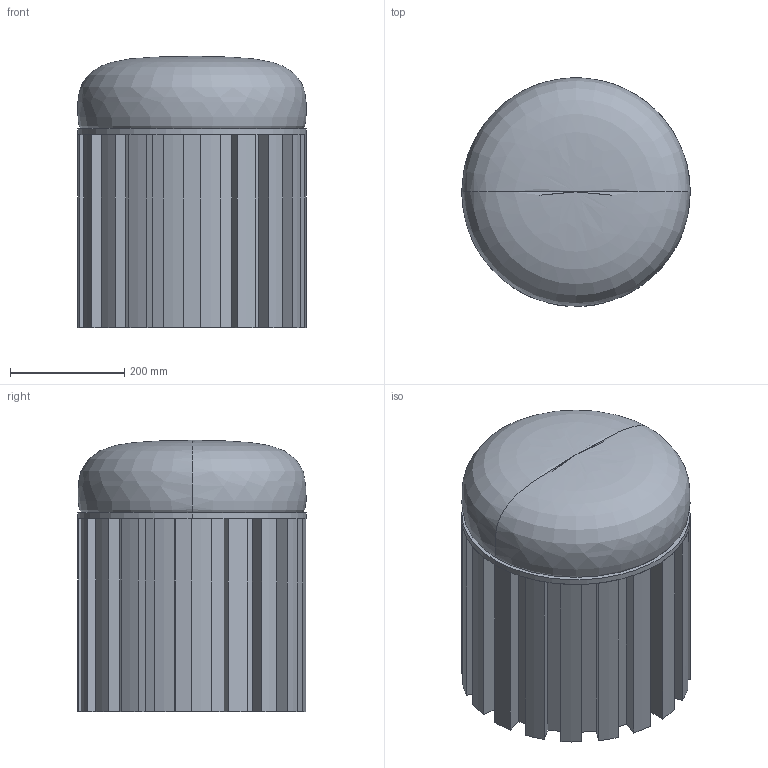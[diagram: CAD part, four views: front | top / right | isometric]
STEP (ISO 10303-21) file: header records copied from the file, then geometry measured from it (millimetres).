
FILE_DESCRIPTION(/* description */ (''),/* implementation_level */ '2;1');
FILE_NAME(/* name */ 'Tribu Stool',/* time_stamp */ '2022-09-21T15:08:05+02:00',/* author */ (''),/* organization */ (''),/* preprocessor_version */ 'ST-DEVELOPER v15',/* originating_system */ '',/* authorisation */ '');
FILE_SCHEMA (('AUTOMOTIVE_DESIGN'));
Length unit declared in the file: millimetre
Products named in the file (1): Document
Bounding box: 400.21 x 399.85 x 475.01 mm (x, y, z)
Volume: 37973009 mm3; surface area: 1521518.4 mm2
Topology: 2 solids, 3 shells, 87 faces, 249 edges, 165 vertices
Faces by surface type: bspline 81, plane 6
Entity records: 2564 total; most frequent: CARTESIAN_POINT 1092, ORIENTED_EDGE 492, EDGE_CURVE 247, B_SPLINE_CURVE_WITH_KNOTS 196, VERTEX_POINT 165, ADVANCED_FACE 87, FACE_OUTER_BOUND 87, EDGE_LOOP 87
